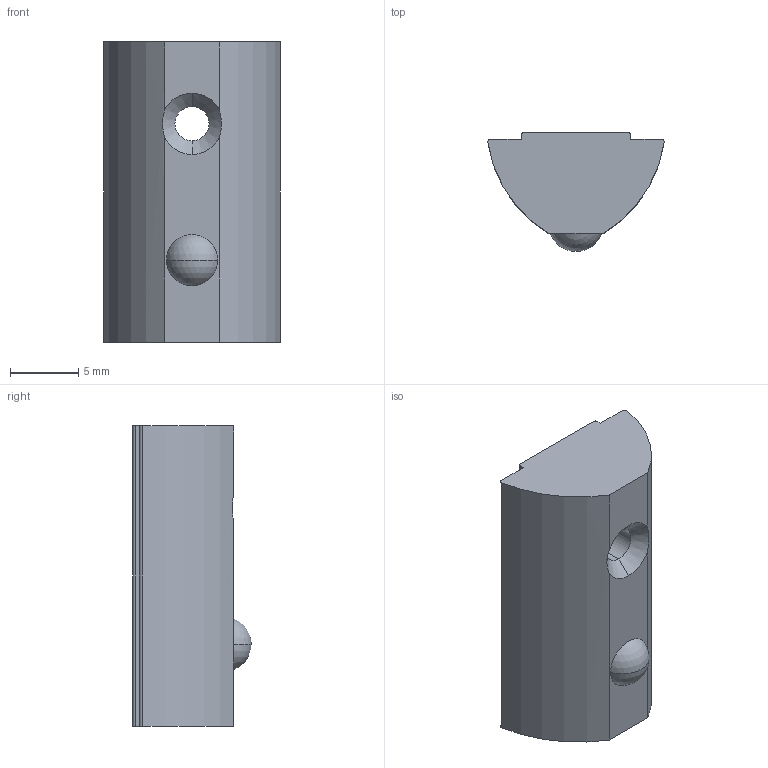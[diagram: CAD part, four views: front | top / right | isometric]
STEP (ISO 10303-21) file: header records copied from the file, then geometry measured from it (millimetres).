
FILE_DESCRIPTION (( 'STEP AP203' ), '1' );
FILE_NAME ('LIMA-LHNR3-84040.STEP', '2018-03-15T12:13:49', ( '' ), ( '' ), 'SwSTEP 2.0', 'SolidWorks 2013', '' );
FILE_SCHEMA (( 'CONFIG_CONTROL_DESIGN' ));
Length unit declared in the file: millimetre
Products named in the file (1): LIMA-LHNR3-84040
Bounding box: 12.94 x 8.7 x 22 mm (x, y, z)
Volume: 1572.7 mm3; surface area: 956.1 mm2
Topology: 1 solids, 1 shells, 24 faces, 63 edges, 41 vertices
Faces by surface type: cylinder 9, plane 9, cone 4, sphere 2
Entity records: 838 total; most frequent: DIRECTION 139, CARTESIAN_POINT 139, ORIENTED_EDGE 126, EDGE_CURVE 63, AXIS2_PLACEMENT_3D 53, VERTEX_POINT 41, LINE 33, VECTOR 33
